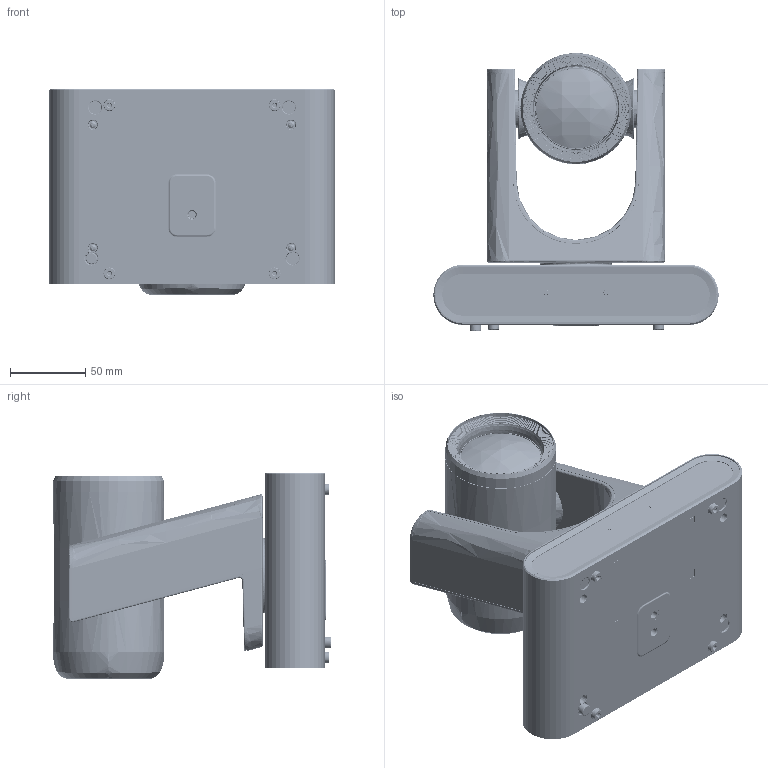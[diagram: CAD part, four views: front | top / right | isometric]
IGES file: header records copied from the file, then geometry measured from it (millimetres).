
Start section: SolidWorks IGES file using analytic representation for surfaces
Global section: file name: D:\00-ASSY-VC-TR30.IGS; native system: SolidWorks 2020; preprocessor: SolidWorks 2020; author: Barry.Chen; date: 240531.150126; units: millimetre
Bounding box: 190 x 185 x 137.6 mm (x, y, z)
Surface area: 623472.7 mm2 (no closed solid volume)
Topology: 0 solids, 0 shells, 14326 faces, 139671 edges, 139605 vertices
Faces by surface type: bspline 9643, revolution 4683
